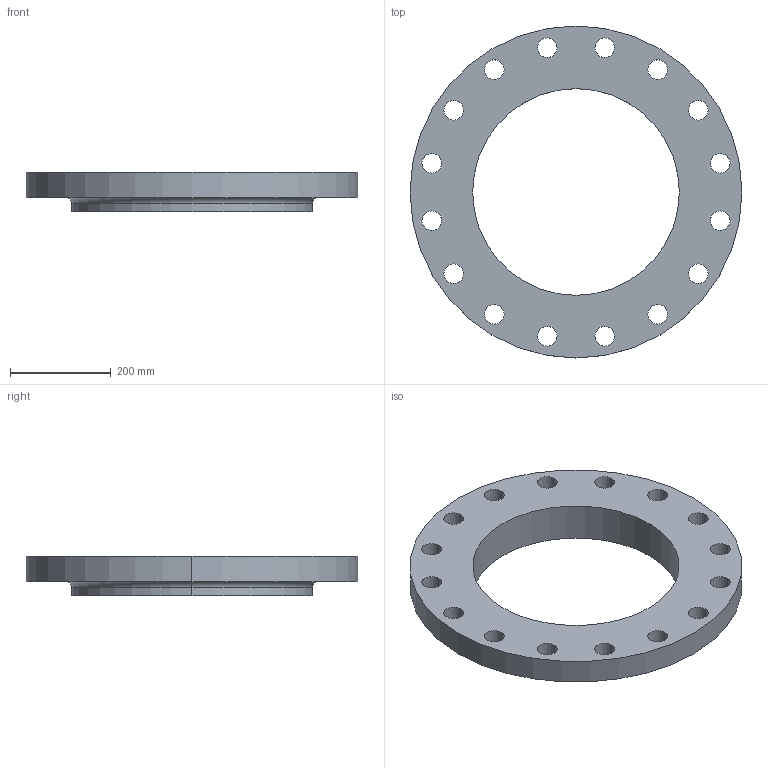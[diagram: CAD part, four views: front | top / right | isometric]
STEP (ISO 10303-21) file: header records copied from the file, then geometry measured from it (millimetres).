
FILE_DESCRIPTION (( 'STEP AP214' ), '1' );
FILE_NAME ('PN40 DN400 Type 12 - Type A Face.STEP', '2019-01-05T23:18:18', ( '' ), ( '' ), 'SwSTEP 2.0', 'SolidWorks 2019', '' );
FILE_SCHEMA (( 'AUTOMOTIVE_DESIGN' ));
Length unit declared in the file: millimetre
Products named in the file (1): PN40 DN400 Type 12 - Type A Face
Bounding box: 660 x 660 x 78 mm (x, y, z)
Volume: 10873572.5 mm3; surface area: 717451.7 mm2
Topology: 1 solids, 1 shells, 43 faces, 118 edges, 78 vertices
Faces by surface type: cylinder 38, plane 3, torus 2
Entity records: 1518 total; most frequent: DIRECTION 286, CARTESIAN_POINT 240, ORIENTED_EDGE 236, AXIS2_PLACEMENT_3D 124, EDGE_CURVE 118, CIRCLE 80, VERTEX_POINT 78, EDGE_LOOP 78
